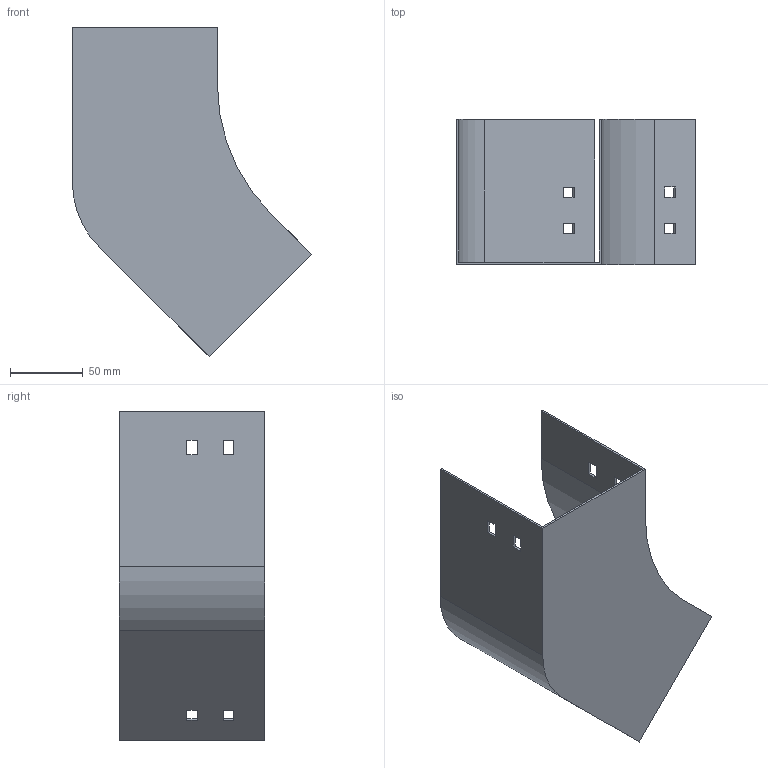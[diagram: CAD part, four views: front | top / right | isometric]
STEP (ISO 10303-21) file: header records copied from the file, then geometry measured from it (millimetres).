
FILE_DESCRIPTION (( 'STEP AP214' ), '1' );
FILE_NAME ('P4_101.step', '2025-07-16T09:18:44', ( '' ), ( '' ), 'SwSTEP 2.0', 'SolidWorks 2023', '' );
FILE_SCHEMA (( 'AUTOMOTIVE_DESIGN' ));
Length unit declared in the file: millimetre
Products named in the file (1): P4_101
Bounding box: 164.9 x 100 x 227.38 mm (x, y, z)
Volume: 98572.4 mm3; surface area: 133391.7 mm2
Topology: 1 solids, 1 shells, 50 faces, 144 edges, 96 vertices
Faces by surface type: plane 46, cylinder 4
Entity records: 1671 total; most frequent: CARTESIAN_POINT 291, ORIENTED_EDGE 288, DIRECTION 254, EDGE_CURVE 144, LINE 136, VECTOR 136, VERTEX_POINT 96, EDGE_LOOP 66
